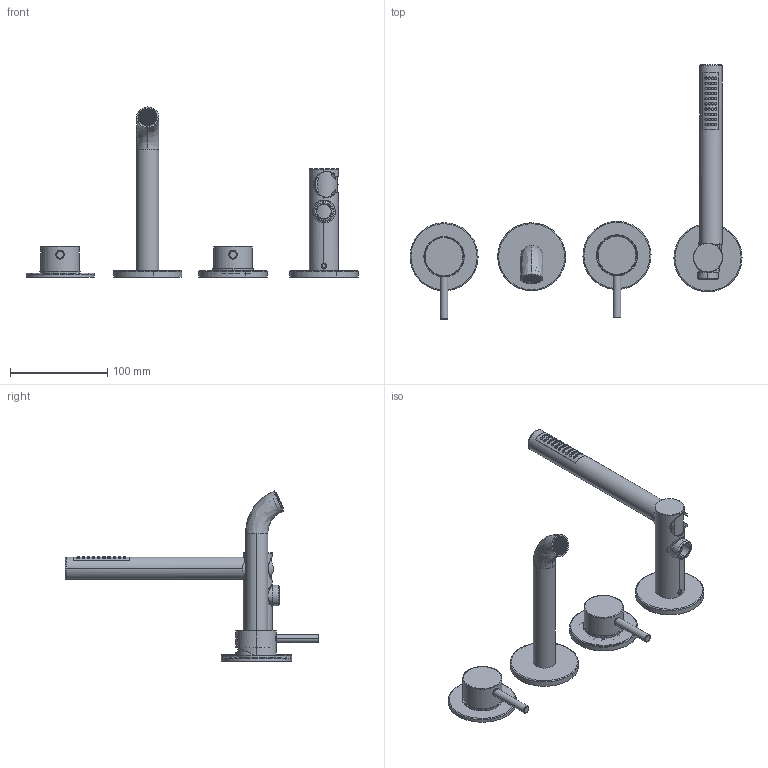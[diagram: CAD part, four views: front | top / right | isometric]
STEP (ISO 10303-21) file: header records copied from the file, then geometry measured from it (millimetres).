
FILE_DESCRIPTION (( 'STEP AP214' ), '1' );
FILE_NAME ('02139910 x architetti.STEP', '2024-09-13T09:33:35', ( '' ), ( '' ), 'SwSTEP 2.0', 'SolidWorks 2020', '' );
FILE_SCHEMA (( 'AUTOMOTIVE_DESIGN' ));
Length unit declared in the file: millimetre
Products named in the file (1): 02139910 x architetti
Bounding box: 341.23 x 260.99 x 174.74 mm (x, y, z)
Volume: 364048.8 mm3; surface area: 103117.4 mm2
Topology: 6 solids, 16 shells, 5505 faces, 15935 edges, 10395 vertices
Faces by surface type: plane 4092, cylinder 1151, bspline 164, cone 76, torus 22
Entity records: 268431 total; most frequent: CARTESIAN_POINT 78905, ORIENTED_EDGE 31650, DIRECTION 19774, EDGE_CURVE 15825, VERTEX_POINT 10311, B_SPLINE_CURVE_WITH_KNOTS 7351, AXIS2_PLACEMENT_3D 6622, LINE 6530
